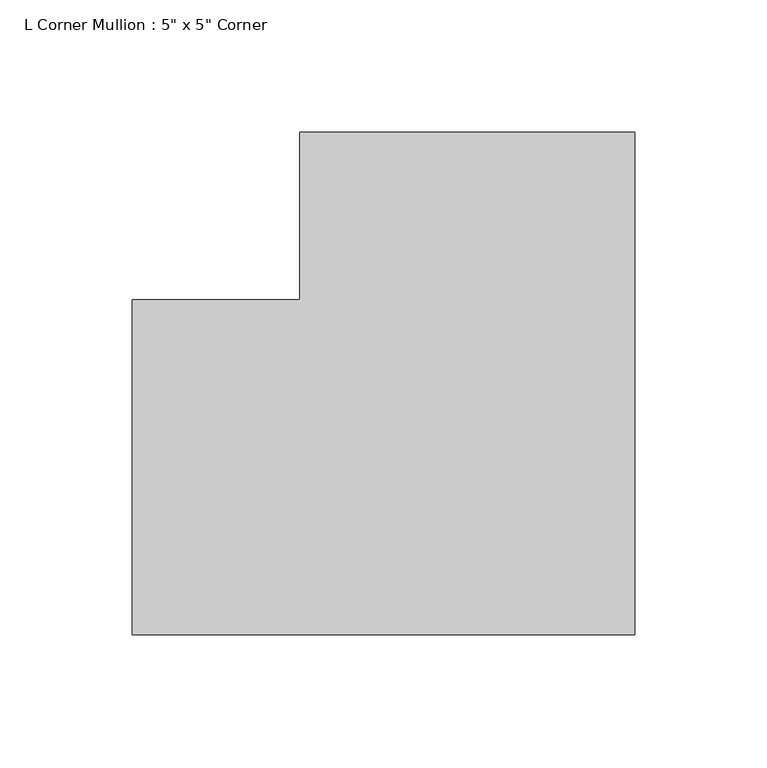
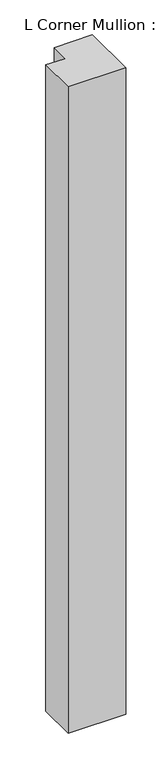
"""IFC4 building model written with IfcOpenShell, lengths in millimetres: member geometry."""

from ifc_helpers import new_model, si_unit, frame, origin, place, context, project, spatial, polyline, outline, extrude, source, transform, mapped, element, save


def member_5840e612(model_context):
    return source(origin(), model_context, "Body", "SweptSolid", [
        extrude(outline(polyline([(63.5, 127.0), (63.5, -63.5), (-127.0, -63.5), (-127.0, 63.5), (-63.5, 63.5), (-63.5, 127.0), (63.5, 127.0)])), frame((0.0, 0.0, -2260.6), z_axis=(0.0, 0.0, 1.0), x_axis=(1.0, 0.0, 0.0)), (0.0, 0.0, 1.0), 2260.6),
    ])


if __name__ == "__main__":
    model = new_model("IFC4")
    model_context = context("Model", 3, world=origin())
    ifc_project = project(units=[si_unit("LENGTHUNIT", "METRE", prefix="MILLI")], contexts=[model_context])
    site = spatial("IfcSite", under=ifc_project)
    building = spatial("IfcBuilding", under=site)
    placement = place(None, origin())
    member_shape = member_5840e612(model_context)
    element("IfcMember", 1, ObjectType="L Corner Mullion : 5\" x 5\" Corner", at=placement, inside=building, context=model_context, shape_type="MappedRepresentation", body=[
        mapped(member_shape, transform((0.0, 0.0, 0.0), x_axis=(1.0, 0.0, 0.0), y_axis=(0.0, 1.0, 0.0), z_axis=(0.0, 0.0, 1.0))),
    ])
    save(model, "model.ifc")
